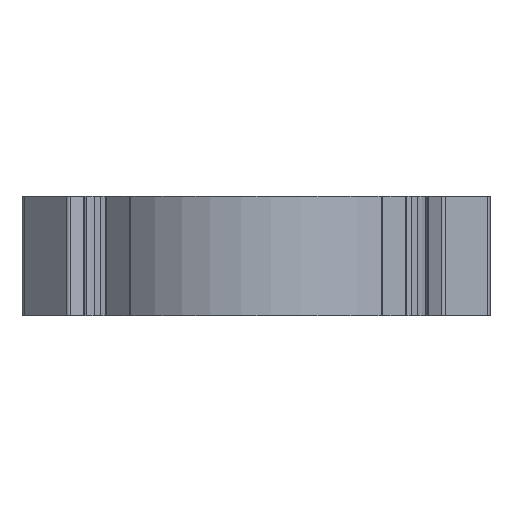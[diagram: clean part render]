
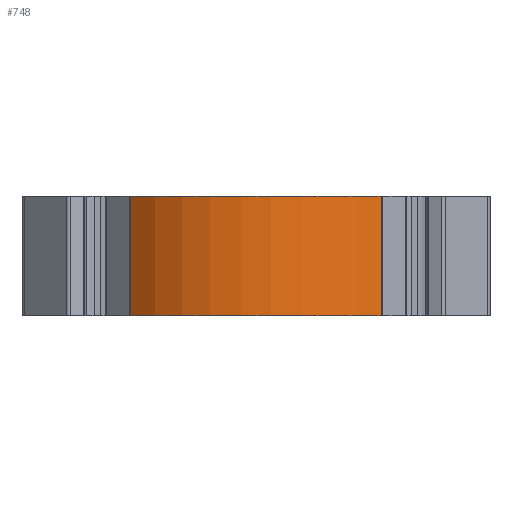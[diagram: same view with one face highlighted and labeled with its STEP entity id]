
A CAD part, front view. The second image highlights one B-rep face of the part: STEP entity #748.
In plain terms, the highlighted cylindrical face has radius 38 mm (diameter 76 mm), a partial arc.
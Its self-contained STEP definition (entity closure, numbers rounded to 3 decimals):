
#88 = CARTESIAN_POINT ( 'NONE',  ( 0., -7.055, 0. ) ) ;
#235 = DIRECTION ( 'NONE',  ( 0., 0., 1. ) ) ;
#748 = ADVANCED_FACE ( 'NONE', ( #2961 ), #1402, .T. ) ;
#998 = EDGE_CURVE ( 'NONE', #4274, #1844, #4956, .T. ) ;
#1035 = LINE ( 'NONE', #4599, #2245 ) ;
#1187 = CARTESIAN_POINT ( 'NONE',  ( -26.134, -34.642, -25. ) ) ;
#1250 = DIRECTION ( 'NONE',  ( 0., 0., 1. ) ) ;
#1402 = CYLINDRICAL_SURFACE ( 'NONE', #2058, 38. ) ;
#1424 = EDGE_CURVE ( 'NONE', #3918, #4274, #1589, .T. ) ;
#1587 = CIRCLE ( 'NONE', #3709, 38. ) ;
#1589 = LINE ( 'NONE', #4432, #4533 ) ;
#1663 = DIRECTION ( 'NONE',  ( 0., 0., 1. ) ) ;
#1844 = VERTEX_POINT ( 'NONE', #3684 ) ;
#1850 = CARTESIAN_POINT ( 'NONE',  ( 0., -7.055, -25. ) ) ;
#1911 = ORIENTED_EDGE ( 'NONE', *, *, #2361, .T. ) ;
#2058 = AXIS2_PLACEMENT_3D ( 'NONE', #3880, #3418, #2557 ) ;
#2245 = VECTOR ( 'NONE', #235, 1000. ) ;
#2361 = EDGE_CURVE ( 'NONE', #4421, #1844, #1035, .T. ) ;
#2368 = ORIENTED_EDGE ( 'NONE', *, *, #998, .F. ) ;
#2557 = DIRECTION ( 'NONE',  ( 1., 0., 0. ) ) ;
#2961 = FACE_OUTER_BOUND ( 'NONE', #4026, .T. ) ;
#3043 = EDGE_CURVE ( 'NONE', #3918, #4421, #1587, .T. ) ;
#3148 = DIRECTION ( 'NONE',  ( 0., 0., 1. ) ) ;
#3267 = ORIENTED_EDGE ( 'NONE', *, *, #3043, .T. ) ;
#3274 = DIRECTION ( 'NONE',  ( 1., 0., 0. ) ) ;
#3418 = DIRECTION ( 'NONE',  ( 0., 0., 1. ) ) ;
#3591 = ORIENTED_EDGE ( 'NONE', *, *, #1424, .F. ) ;
#3684 = CARTESIAN_POINT ( 'NONE',  ( 26.134, -34.642, 0. ) ) ;
#3709 = AXIS2_PLACEMENT_3D ( 'NONE', #1850, #3148, #4767 ) ;
#3880 = CARTESIAN_POINT ( 'NONE',  ( 0., -7.055, -25. ) ) ;
#3905 = CARTESIAN_POINT ( 'NONE',  ( -26.134, -34.642, 0. ) ) ;
#3918 = VERTEX_POINT ( 'NONE', #1187 ) ;
#4026 = EDGE_LOOP ( 'NONE', ( #2368, #3591, #3267, #1911 ) ) ;
#4060 = CARTESIAN_POINT ( 'NONE',  ( 26.134, -34.642, -25. ) ) ;
#4274 = VERTEX_POINT ( 'NONE', #3905 ) ;
#4421 = VERTEX_POINT ( 'NONE', #4060 ) ;
#4432 = CARTESIAN_POINT ( 'NONE',  ( -26.134, -34.642, -25. ) ) ;
#4533 = VECTOR ( 'NONE', #1663, 1000. ) ;
#4535 = AXIS2_PLACEMENT_3D ( 'NONE', #88, #1250, #3274 ) ;
#4599 = CARTESIAN_POINT ( 'NONE',  ( 26.134, -34.642, -25. ) ) ;
#4767 = DIRECTION ( 'NONE',  ( 1., 0., 0. ) ) ;
#4956 = CIRCLE ( 'NONE', #4535, 38. ) ;
